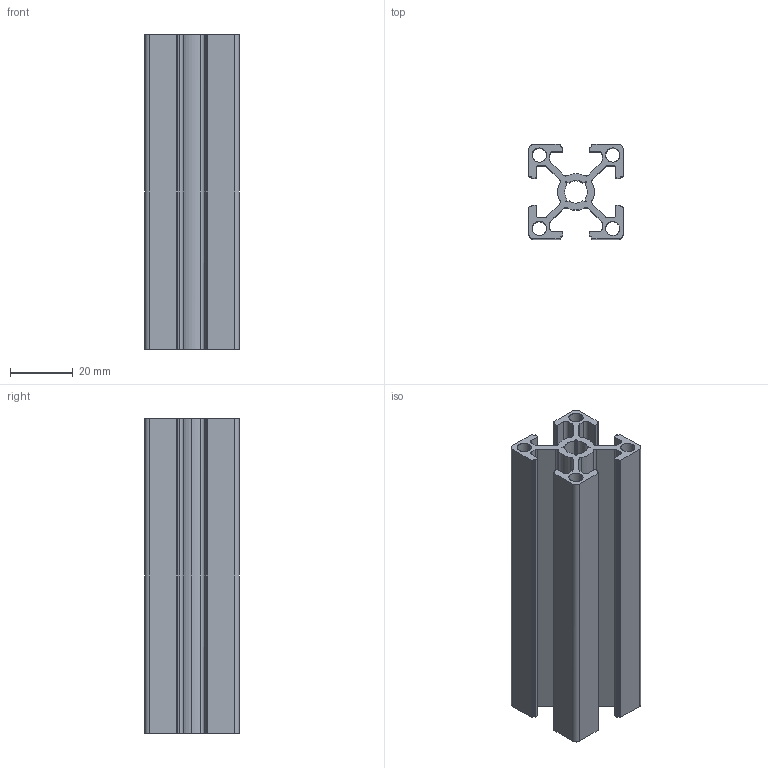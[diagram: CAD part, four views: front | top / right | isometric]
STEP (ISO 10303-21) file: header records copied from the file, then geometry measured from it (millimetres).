
FILE_DESCRIPTION (( 'STEP AP203' ), '1' );
FILE_NAME ('30x30 Sigma Profil.STEP', '2022-01-12T16:19:38', ( '' ), ( '' ), 'SwSTEP 2.0', 'SolidWorks 2018', '' );
FILE_SCHEMA (( 'CONFIG_CONTROL_DESIGN' ));
Length unit declared in the file: millimetre
Products named in the file (1): 30x30 Sigma Profil
Bounding box: 30 x 30 x 100 mm (x, y, z)
Volume: 29900 mm3; surface area: 32408.8 mm2
Topology: 1 solids, 1 shells, 162 faces, 480 edges, 320 vertices
Faces by surface type: bspline 162
Entity records: 5798 total; most frequent: CARTESIAN_POINT 3004, ORIENTED_EDGE 960, EDGE_CURVE 480, B_SPLINE_CURVE_WITH_KNOTS 378, VERTEX_POINT 320, EDGE_LOOP 172, ADVANCED_FACE 162, FACE_OUTER_BOUND 162
